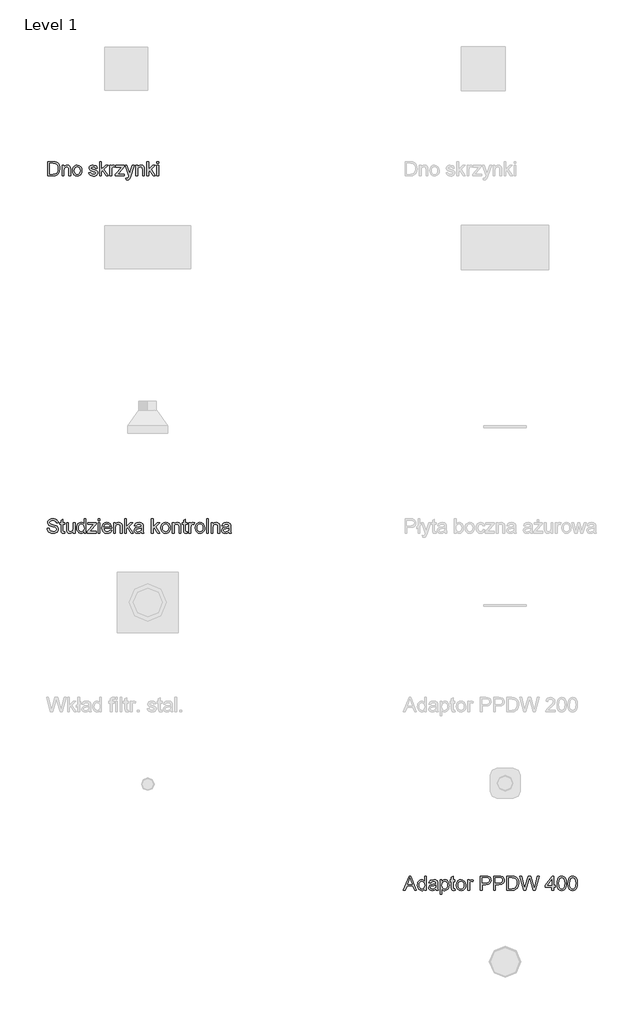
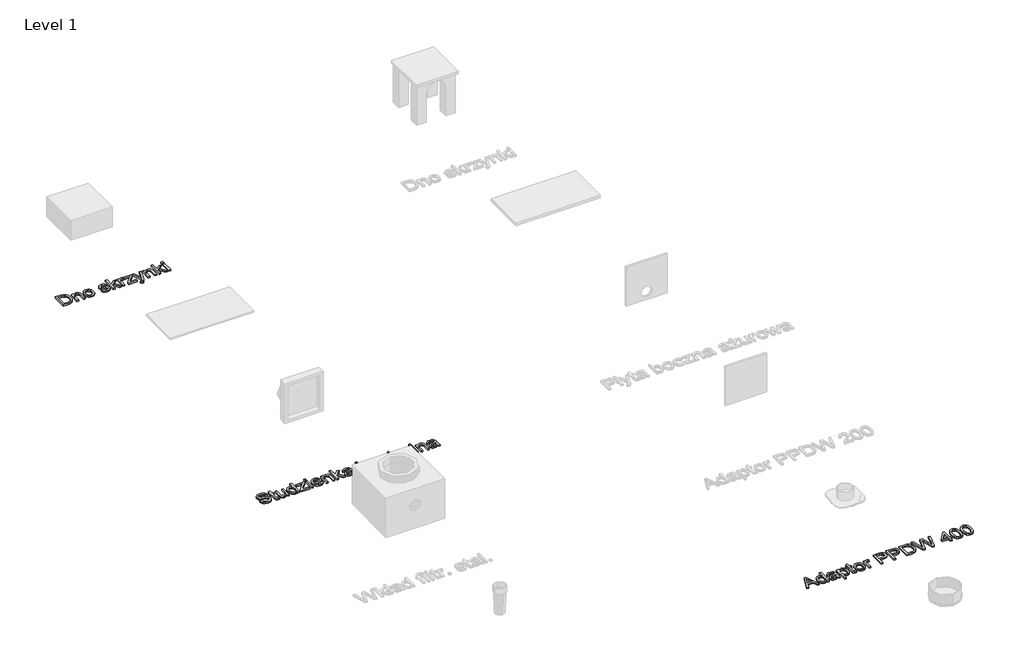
# One storey, part 2 of 5: 3 proxies.
"""IFC4 building model written with IfcOpenShell, lengths in millimetres."""

from ifc_helpers import new_model, si_unit, origin, origin_with_axes, place, context, project, spatial, polyline, outline, extrude, element, save

model = new_model("IFC4")

# Units and contexts
model_context = context("Model", 3, world=origin())
ifc_project = project(units=[si_unit("LENGTHUNIT", "METRE", prefix="MILLI")], contexts=[model_context])

# Site, building, storey
site = spatial("IfcSite", under=ifc_project)
building = spatial("IfcBuilding", under=site)
storey = spatial("IfcBuildingStorey", under=building, Name="Level 1", Elevation=0.0)

# Proxies
placement = place(None, origin())
element("IfcBuildingElementProxy", 1, Name="200mm Arial", ObjectType="200mm Arial", at=placement, inside=storey, context=model_context, shape_type="SweptSolid", body=[
    extrude(outline(polyline([(-12354.0896023, -14113.949573), (-12273.8913273, -13913.0369527), (-12252.5051207, -13913.0369527), (-12172.3068457, -14113.949573), (-12198.8434003, -14113.949573), (-12221.8482877, -14051.1643791), (-12304.5972112, -14051.1643791), (-12327.5530477, -14113.949573), (-12354.0896023, -14113.949573)]), holes=[polyline([(-12295.3756358, -14026.0503016), (-12231.0208121, -14026.0503016), (-12249.1206063, -13976.6560124), (-12263.198224, -13938.1510302), (-12275.7062118, -13972.3395303), (-12295.3756358, -14026.0503016)])]), origin_with_axes(), (0.0, 0.0, 1.0), 20.0),
    extrude(outline(polyline([(-12057.5767142, -14113.949573), (-12057.5767142, -14090.2579725), (-12065.0907039, -14101.9964738), (-12074.1927176, -14110.3811176), (-12084.8827552, -14115.4119039), (-12097.1608168, -14117.0888326), (-12113.3966756, -14114.6608115), (-12128.2591082, -14107.376748), (-12140.8406724, -14095.7455456), (-12150.233926, -14080.2761077), (-12156.0832497, -14061.5938337), (-12158.0330243, -14040.324123), (-12156.2365339, -14019.3180611), (-12150.8470627, -14000.3476128), (-12141.870742, -13984.4918989), (-12129.3137032, -13972.8300396), (-12114.1263082, -13965.6563407), (-12097.2589187, -13963.2651077), (-12084.9716601, -13964.975759), (-12074.1068785, -13970.1077128), (-12057.5767142, -13987.8886759), (-12057.5767142, -13913.0369527), (-12032.4626366, -13913.0369527), (-12032.4626366, -14113.949573), (-12057.5767142, -14113.949573)]), holes=[polyline([(-12132.9189468, -14040.2260211), (-12130.0862554, -14062.9427343), (-12121.5881813, -14079.0988853), (-12109.239609, -14088.7557877), (-12094.855423, -14091.9747551), (-12080.4773684, -14088.9029404), (-12068.4414957, -14079.6874965), (-12060.2929095, -14064.1567449), (-12057.5767142, -14042.1390075), (-12060.3419605, -14018.0672623), (-12068.6376995, -14001.3776824), (-12080.9801404, -13991.6288096), (-12095.8854926, -13988.3791853), (-12110.4168314, -13991.5000509), (-12122.3239453, -14000.8626476), (-12130.2701964, -14016.9452222), (-12132.9189468, -14040.2260211)])]), origin_with_axes(), (0.0, 0.0, 1.0), 20.0),
    extrude(outline(polyline([(-11900.6137295, -14095.1140148), (-11924.9675176, -14112.1346884), (-11951.8719542, -14117.0888326), (-11972.859622, -14114.1089885), (-11988.3413227, -14105.169456), (-11997.8878604, -14091.5946104), (-12001.0700397, -14074.7088268), (-11996.2630483, -14054.8431991), (-11983.6324331, -14040.4222249), (-11966.0476738, -14032.1816682), (-11944.3181106, -14028.4047463), (-11900.7608823, -14019.7717822), (-11900.6137295, -14014.1799759), (-11902.3427749, -14002.9718377), (-11907.5299111, -13995.6387233), (-11919.1304566, -13990.1940698), (-11935.292739, -13988.3791853), (-11950.2532734, -13989.5870645), (-11960.7011221, -13993.2107021), (-11967.8257701, -13999.9122858), (-11972.8167025, -14010.3540031), (-11997.93078, -14007.2147434), (-11987.0659984, -13982.6892771), (-11977.8076349, -13974.4364576), (-11965.1892824, -13968.3173538), (-11932.0553774, -13963.2651077), (-11901.6192737, -13967.7287426), (-11884.4269218, -13978.9368807), (-11876.7259253, -13995.9820798), (-11875.499652, -14017.9568977), (-11875.499652, -14049.2023418), (-11874.2243278, -14092.8331464), (-11869.2211326, -14113.949573), (-11894.3352102, -14113.949573), (-11900.6137295, -14095.1140148)]), holes=[polyline([(-11900.6137295, -14044.8858597), (-11941.1297999, -14052.5868562), (-11962.7367358, -14056.6580836), (-11972.5223969, -14063.2799595), (-11975.9559622, -14072.9429932), (-11974.0858953, -14080.4109977), (-11968.4756949, -14086.5301016), (-11959.2479882, -14090.6135917), (-11946.5254025, -14091.9747551), (-11933.0363961, -14090.4725703), (-11921.1170194, -14085.9660159), (-11904.7340079, -14071.4224143), (-11900.7608823, -14051.998245), (-11900.6137295, -14044.8858597)])]), origin_with_axes(), (0.0, 0.0, 1.0), 20.0),
    extrude(outline(polyline([(-11840.9677954, -14170.4562474), (-11840.9677954, -13966.4043674), (-11815.8537179, -13966.4043674), (-11815.8537179, -13991.0279356), (-11798.4896877, -13970.2058147), (-11787.7965844, -13965.0002845), (-11775.0433419, -13963.2651077), (-11758.0594564, -13965.6931289), (-11743.2092865, -13972.9771924), (-11731.1182316, -13984.6758398), (-11722.4116911, -14000.3476128), (-11717.1509785, -14018.8520772), (-11715.3974077, -14039.0487987), (-11717.3778391, -14060.5269759), (-11723.3191333, -14079.7365474), (-11733.031218, -14095.702626), (-11746.3240208, -14107.4503244), (-11761.8057214, -14114.6792056), (-11778.0844997, -14117.0888326), (-11789.629863, -14115.4762832), (-11799.9366902, -14110.638635), (-11815.8537179, -14094.3291999), (-11815.8537179, -14170.4562474), (-11840.9677954, -14170.4562474)]), holes=[polyline([(-11815.8537179, -14041.3541926), (-11813.1375225, -14063.8685707), (-11804.9889363, -14079.6139201), (-11792.9653264, -14088.8845463), (-11778.6240599, -14091.9747551), (-11764.0498016, -14088.7741818), (-11751.7196234, -14079.1724617), (-11743.3135198, -14062.8507638), (-11740.5114852, -14039.4902571), (-11743.2460747, -14017.0985064), (-11751.4498432, -14001.1324278), (-11763.455059, -13991.5674959), (-11777.5939904, -13988.3791853), (-11791.788104, -13991.769831), (-11804.2531723, -14001.9417682), (-11812.9535815, -14018.5761657), (-11815.8537179, -14041.3541926)])]), origin_with_axes(), (0.0, 0.0, 1.0), 20.0),
    extrude(outline(polyline([(-11633.7766557, -14093.0048247), (-11630.637396, -14114.6853369), (-11649.4239032, -14117.0888326), (-11670.4667534, -14112.9195034), (-11680.963653, -14101.9811454), (-11684.0048108, -14073.4825535), (-11684.0048108, -13991.518445), (-11702.8403689, -13991.518445), (-11702.8403689, -13966.4043674), (-11684.0048108, -13966.4043674), (-11684.0048108, -13930.5481356), (-11658.8907332, -13915.7838049), (-11658.8907332, -13966.4043674), (-11633.7766557, -13966.4043674), (-11633.7766557, -13991.518445), (-11658.8907332, -13991.518445), (-11658.8907332, -14072.7467895), (-11657.5663581, -14085.6962357), (-11653.2744015, -14090.2824979), (-11644.7150137, -14091.9747551), (-11633.7766557, -14093.0048247)])), origin_with_axes(), (0.0, 0.0, 1.0), 20.0),
    extrude(outline(polyline([(-11614.9410976, -14040.1769702), (-11609.5087068, -14004.6027813), (-11602.7182183, -13990.7796153), (-11593.2115344, -13979.5990683), (-11573.0761265, -13967.3485979), (-11548.9675931, -13963.2651077), (-11522.5843227, -13968.237646), (-11501.5108157, -13983.1552609), (-11487.6968468, -14006.8407301), (-11483.0921905, -14038.116831), (-11485.1278042, -14063.4884259), (-11491.2346453, -14082.8022307), (-11501.2349042, -14097.2661245), (-11514.9507713, -14108.0879865), (-11531.2418123, -14114.8386211), (-11548.9675931, -14117.0888326), (-11575.6696946, -14112.1346884), (-11596.7186761, -14097.2722558), (-11610.3854922, -14073.090146), (-11614.9410976, -14040.1769702)]), holes=[polyline([(-11589.82702, -14040.1279193), (-11586.9207523, -14062.8568952), (-11578.201949, -14079.0498343), (-11565.0808245, -14088.7435249), (-11548.9675931, -14091.9747551), (-11532.9279381, -14088.7251308), (-11519.8313391, -14078.9762579), (-11511.1125358, -14062.568721), (-11508.206268, -14039.3431043), (-11511.1309299, -14017.276316), (-11519.9049155, -14001.304106), (-11533.0199086, -13991.6104155), (-11548.9675931, -13988.3791853), (-11565.0808245, -13991.5981527), (-11578.201949, -14001.2550551), (-11586.9207523, -14017.4112061), (-11589.82702, -14040.1279193)])]), origin_with_axes(), (0.0, 0.0, 1.0), 20.0),
    extrude(outline(polyline([(-11454.8388533, -14113.949573), (-11454.8388533, -13966.4043674), (-11432.8640354, -13966.4043674), (-11432.8640354, -13988.2320325), (-11417.2658388, -13968.1211501), (-11401.5695404, -13963.2651077), (-11389.0615525, -13965.2026196), (-11376.3573609, -13971.0151551), (-11384.7450704, -13993.5295332), (-11402.4034062, -13988.3791853), (-11416.6036512, -13993.3333295), (-11425.6535483, -14007.0675906), (-11429.7247757, -14036.4000484), (-11429.7247757, -14113.949573), (-11454.8388533, -14113.949573)])), origin_with_axes(), (0.0, 0.0, 1.0), 20.0),
    extrude(outline(polyline([(-11279.0403105, -14113.949573), (-11279.0403105, -13913.0369527), (-11204.5809947, -13913.0369527), (-11174.5618239, -13914.949939), (-11150.1589848, -13924.3431926), (-11141.2868974, -13932.6695885), (-11134.3400591, -13943.767362), (-11129.8518987, -13956.8578296), (-11128.3558453, -13971.1623079), (-11132.3964158, -13994.8416456), (-11144.5181276, -14014.5723833), (-11154.2256137, -14022.3408248), (-11167.1857899, -14027.8897115), (-11202.864212, -14032.328821), (-11253.926233, -14032.328821), (-11253.926233, -14113.949573), (-11279.0403105, -14113.949573)]), holes=[polyline([(-11253.926233, -14007.2147434), (-11201.392684, -14007.2147434), (-11179.1235606, -14004.9093496), (-11164.4082808, -13997.9931681), (-11156.2045123, -13986.8953946), (-11153.4699228, -13972.0452247), (-11155.0824722, -13960.7635102), (-11159.9201205, -13951.2476292), (-11167.3819936, -13944.086193), (-11176.8672177, -13939.8678128), (-11201.9812952, -13938.1510302), (-11253.926233, -13938.1510302), (-11253.926233, -14007.2147434)])]), origin_with_axes(), (0.0, 0.0, 1.0), 20.0),
    extrude(outline(polyline([(-11093.8239887, -14113.949573), (-11093.8239887, -13913.0369527), (-11019.3646728, -13913.0369527), (-10989.345502, -13914.949939), (-10964.942663, -13924.3431926), (-10956.0705756, -13932.6695885), (-10949.1237372, -13943.767362), (-10944.6355769, -13956.8578296), (-10943.1395234, -13971.1623079), (-10947.180094, -13994.8416456), (-10959.3018058, -14014.5723833), (-10969.0092919, -14022.3408248), (-10981.969468, -14027.8897115), (-11017.6478902, -14032.328821), (-11068.7099111, -14032.328821), (-11068.7099111, -14113.949573), (-11093.8239887, -14113.949573)]), holes=[polyline([(-11068.7099111, -14007.2147434), (-11016.1763622, -14007.2147434), (-10993.9072388, -14004.9093496), (-10979.191959, -13997.9931681), (-10970.9881905, -13986.8953946), (-10968.253601, -13972.0452247), (-10969.8661504, -13960.7635102), (-10974.7037986, -13951.2476292), (-10982.1656718, -13944.086193), (-10991.6508959, -13939.8678128), (-11016.7649734, -13938.1510302), (-11068.7099111, -13938.1510302), (-11068.7099111, -14007.2147434)])]), origin_with_axes(), (0.0, 0.0, 1.0), 20.0),
    extrude(outline(polyline([(-10908.6076668, -14113.949573), (-10908.6076668, -13913.0369527), (-10839.2986989, -13913.0369527), (-10803.4424671, -13915.9309577), (-10787.4273376, -13921.5105013), (-10773.9138056, -13930.302881), (-10760.020129, -13945.606772), (-10750.1241033, -13964.6385338), (-10744.2012032, -13987.0302846), (-10742.2269031, -14012.4141423), (-10747.5734548, -14052.9547382), (-10761.3077159, -14082.2136195), (-10779.6527648, -14100.436041), (-10803.6631963, -14110.5160077), (-10835.9632355, -14113.949573), (-10908.6076668, -14113.949573)]), holes=[polyline([(-10883.4935893, -14088.8354954), (-10839.0534443, -14088.8354954), (-10806.7288796, -14085.2057264), (-10788.0895252, -14074.9540815), (-10779.3645905, -14064.0831685), (-10772.8101597, -14050.0116822), (-10768.7082754, -14032.6783089), (-10767.3409807, -14012.0217348), (-10770.0203879, -13984.6513144), (-10778.0586095, -13964.4423301), (-10789.9350665, -13950.5609162), (-10804.1291802, -13942.1732067), (-10839.7401573, -13938.1510302), (-10883.4935893, -13938.1510302), (-10883.4935893, -14088.8354954)])]), origin_with_axes(), (0.0, 0.0, 1.0), 20.0),
    extrude(outline(polyline([(-10671.7407129, -14113.949573), (-10726.5306047, -13913.0369527), (-10700.6317122, -13913.0369527), (-10668.8467078, -14045.0820635), (-10659.0365213, -14085.8433885), (-10648.5396217, -14049.790953), (-10608.7102643, -13913.0369527), (-10571.3825046, -13913.0369527), (-10542.4424543, -14012.1688876), (-10520.9090948, -14085.8433885), (-10511.3932139, -14046.2592858), (-10479.3139039, -13913.0369527), (-10453.4150114, -13913.0369527), (-10508.2539542, -14113.949573), (-10535.0848144, -14113.949573), (-10583.2528303, -13958.9486257), (-10589.9728081, -13937.3171643), (-10597.5266517, -13963.3632096), (-10641.4272365, -14113.949573), (-10671.7407129, -14113.949573)])), origin_with_axes(), (0.0, 0.0, 1.0), 20.0),
    extrude(outline(polyline([(-10277.6164687, -14113.949573), (-10277.6164687, -14066.8606776), (-10368.6549998, -14066.8606776), (-10368.6549998, -14041.7466), (-10271.3379493, -13916.1762123), (-10252.5023912, -13916.1762123), (-10252.5023912, -14041.7466), (-10227.3883136, -14041.7466), (-10227.3883136, -14066.8606776), (-10252.5023912, -14066.8606776), (-10252.5023912, -14113.949573), (-10277.6164687, -14113.949573)]), holes=[polyline([(-10277.6164687, -14041.7466), (-10277.6164687, -13964.1480245), (-10337.7529122, -14041.7466), (-10277.6164687, -14041.7466)])]), origin_with_axes(), (0.0, 0.0, 1.0), 20.0),
    extrude(outline(polyline([(-10205.4134958, -14015.1119436), (-10203.5679544, -13982.9529258), (-10198.0313304, -13957.3054194), (-10188.858806, -13937.7770168), (-10176.1055635, -13923.9753106), (-10159.6796324, -13915.7715422), (-10139.4890422, -13913.0369527), (-10124.013473, -13914.6556334), (-10110.1565845, -13919.5116758), (-10098.5683016, -13927.4150073), (-10089.8985493, -13938.1755557), (-10078.1263254, -13967.9004209), (-10073.5645887, -14015.1119436), (-10075.3917359, -14047.0870203), (-10080.8731777, -14072.6732131), (-10089.9905198, -14092.2200098), (-10102.7253682, -14106.0768983), (-10119.1880875, -14114.335849), (-10139.4890422, -14117.0888326), (-10165.5841384, -14112.3063667), (-10185.4007152, -14097.9589689), (-10194.1563067, -14082.8298218), (-10200.4103006, -14063.9789353), (-10205.4134958, -14015.1119436)]), holes=[polyline([(-10180.2994182, -14015.0628927), (-10177.3563623, -14054.5672876), (-10168.5271944, -14077.4311536), (-10155.3815444, -14088.3388547), (-10139.4890422, -14091.9747551), (-10123.59654, -14088.326592), (-10110.4508901, -14077.3821026), (-10101.6217222, -14054.5059739), (-10098.6786662, -14015.0628927), (-10101.5236203, -13976.4475459), (-10110.0584826, -13953.4058703), (-10123.1796071, -13941.9647402), (-10139.7833478, -13938.1510302), (-10155.5041718, -13941.5110191), (-10168.1347869, -13951.5909857), (-10177.2582604, -13976.0674012), (-10180.2994182, -14015.0628927)])]), origin_with_axes(), (0.0, 0.0, 1.0), 20.0),
    extrude(outline(polyline([(-10051.5897709, -14015.1119436), (-10049.7442295, -13982.9529258), (-10044.2076055, -13957.3054194), (-10035.0350811, -13937.7770168), (-10022.2818386, -13923.9753106), (-10005.8559075, -13915.7715422), (-9985.6653173, -13913.0369527), (-9970.1897481, -13914.6556334), (-9956.3328596, -13919.5116758), (-9944.7445767, -13927.4150073), (-9936.0748244, -13938.1755557), (-9924.3026005, -13967.9004209), (-9919.7408638, -14015.1119436), (-9921.568011, -14047.0870203), (-9927.0494528, -14072.6732131), (-9936.1667949, -14092.2200098), (-9948.9016433, -14106.0768983), (-9965.3643625, -14114.335849), (-9985.6653173, -14117.0888326), (-10011.7604135, -14112.3063667), (-10031.5769903, -14097.9589689), (-10040.3325818, -14082.8298218), (-10046.5865757, -14063.9789353), (-10051.5897709, -14015.1119436)]), holes=[polyline([(-10026.4756933, -14015.0628927), (-10023.5326374, -14054.5672876), (-10014.7034695, -14077.4311536), (-10001.5578195, -14088.3388547), (-9985.6653173, -14091.9747551), (-9969.7728151, -14088.326592), (-9956.6271652, -14077.3821026), (-9947.7979973, -14054.5059739), (-9944.8549413, -14015.0628927), (-9947.6998954, -13976.4475459), (-9956.2347577, -13953.4058703), (-9969.3558822, -13941.9647402), (-9985.9596229, -13938.1510302), (-10001.6804468, -13941.5110191), (-10014.311062, -13951.5909857), (-10023.4345355, -13976.0674012), (-10026.4756933, -14015.0628927)])]), origin_with_axes(), (0.0, 0.0, 1.0), 20.0),
])
element("IfcBuildingElementProxy", 2, Name="200mm Arial", ObjectType="200mm Arial", at=placement, inside=storey, context=model_context, shape_type="SweptSolid", body=[
    extrude(outline(polyline([(-17340.1100864, -9044.8858597), (-17314.9960089, -9044.8858597), (-17306.902605, -9070.0244627), (-17298.7724129, -9078.9149443), (-17287.1350791, -9085.9169649), (-17272.9103087, -9090.4603076), (-17257.0178065, -9091.9747551), (-17230.7755575, -9087.3884929), (-17213.8284602, -9074.7824032), (-17208.2611794, -9057.9334078), (-17212.4305087, -9042.2616348), (-17218.7826044, -9036.0628232), (-17229.5002332, -9030.857293), (-17266.0677036, -9021.2678356), (-17305.431077, -9008.8824751), (-17317.9329335, -9000.433452), (-17326.7927582, -8990.1940698), (-17332.0718649, -8978.3850577), (-17333.8315671, -8965.227145), (-17331.6549319, -8950.5179966), (-17325.1250265, -8936.8021295), (-17314.4135291, -8925.1770585), (-17299.6921179, -8916.7402981), (-17282.0215194, -8911.6083442), (-17262.46246, -8909.897693), (-17241.2724571, -8911.688052), (-17222.7312045, -8917.0591291), (-17207.5008899, -8925.9005598), (-17196.2437009, -8938.1019793), (-17189.1190529, -8952.9030982), (-17186.2863615, -8969.5436271), (-17211.4004391, -8969.5436271), (-17216.0112267, -8954.5585672), (-17225.6252095, -8943.7428365), (-17240.6470577, -8937.194537), (-17261.4814413, -8935.0117705), (-17282.8063343, -8937.1700115), (-17297.435775, -8943.6447347), (-17305.8970609, -8953.1728783), (-17308.7174895, -8964.491381), (-17306.718664, -8974.1421521), (-17300.7221875, -8981.9044622), (-17286.5464679, -8988.8451691), (-17259.7156078, -8995.9330289), (-17215.2754628, -9008.5391186), (-17200.9587218, -9017.6503293), (-17190.9707256, -9028.8952557), (-17185.1030078, -9042.1512702), (-17183.1471018, -9057.2957457), (-17185.3973134, -9072.7774463), (-17192.147948, -9087.339442), (-17203.1230942, -9099.8719553), (-17218.0468404, -9109.2652089), (-17235.9933504, -9115.1329267), (-17256.0367878, -9117.0888326), (-17280.6419619, -9114.9796425), (-17300.8938658, -9108.6520722), (-17317.0254912, -9098.0815962), (-17329.2698303, -9083.2436891), (-17337.1302423, -9065.1684204), (-17340.1100864, -9044.8858597)])), origin_with_axes(), (0.0, 0.0, 1.0), 20.0),
    extrude(outline(polyline([(-17095.2478305, -9093.0048247), (-17092.1085708, -9114.6853369), (-17110.895078, -9117.0888326), (-17131.9379281, -9112.9195034), (-17142.4348277, -9101.9811454), (-17145.4759855, -9073.4825535), (-17145.4759855, -8991.518445), (-17164.3115437, -8991.518445), (-17164.3115437, -8966.4043674), (-17145.4759855, -8966.4043674), (-17145.4759855, -8930.5481356), (-17120.361908, -8915.7838049), (-17120.361908, -8966.4043674), (-17095.2478305, -8966.4043674), (-17095.2478305, -8991.518445), (-17120.361908, -8991.518445), (-17120.361908, -9072.7467895), (-17119.0375328, -9085.6962357), (-17114.7455762, -9090.2824979), (-17106.1861884, -9091.9747551), (-17095.2478305, -9093.0048247)])), origin_with_axes(), (0.0, 0.0, 1.0), 20.0),
    extrude(outline(polyline([(-16975.9559622, -9113.949573), (-16975.9559622, -9088.5902408), (-16985.0426474, -9101.0583747), (-16995.6253862, -9109.9641847), (-17007.7041783, -9115.3076707), (-17021.279024, -9117.0888326), (-17044.8970481, -9112.0856375), (-17061.1819577, -9099.5285987), (-17068.6622249, -9081.0363971), (-17070.1337529, -9057.6881532), (-17070.1337529, -8966.4043674), (-17045.0196754, -8966.4043674), (-17045.0196754, -9045.8668784), (-17043.4990965, -9071.4714652), (-17039.8386706, -9080.0124589), (-17033.5662826, -9086.5055761), (-17014.8533518, -9091.9747551), (-16993.8840781, -9086.3829488), (-16985.5270254, -9079.779467), (-16980.0271896, -9071.1526342), (-16975.9559622, -9043.1690771), (-16975.9559622, -8966.4043674), (-16950.8418846, -8966.4043674), (-16950.8418846, -9113.949573), (-16975.9559622, -9113.949573)])), origin_with_axes(), (0.0, 0.0, 1.0), 20.0),
    extrude(outline(polyline([(-16825.2714969, -9113.949573), (-16825.2714969, -9090.2579725), (-16832.7854867, -9101.9964738), (-16841.8875004, -9110.3811176), (-16852.577538, -9115.4119039), (-16864.8555996, -9117.0888326), (-16881.0914583, -9114.6608115), (-16895.9538909, -9107.376748), (-16908.5354552, -9095.7455456), (-16917.9287088, -9080.2761077), (-16923.7780325, -9061.5938337), (-16925.7278071, -9040.324123), (-16923.9313167, -9019.3180611), (-16918.5418454, -9000.3476128), (-16909.5655248, -8984.4918989), (-16897.008486, -8972.8300396), (-16881.821091, -8965.6563407), (-16864.9537015, -8963.2651077), (-16852.6664428, -8964.975759), (-16841.8016612, -8970.1077128), (-16825.2714969, -8987.8886759), (-16825.2714969, -8913.0369527), (-16800.1574194, -8913.0369527), (-16800.1574194, -9113.949573), (-16825.2714969, -9113.949573)]), holes=[polyline([(-16900.6137295, -9040.2260211), (-16897.7810382, -9062.9427343), (-16889.2829641, -9079.0988853), (-16876.9343918, -9088.7557877), (-16862.5502058, -9091.9747551), (-16848.1721511, -9088.9029404), (-16836.1362785, -9079.6874965), (-16827.9876923, -9064.1567449), (-16825.2714969, -9042.1390075), (-16828.0367433, -9018.0672623), (-16836.3324823, -9001.3776824), (-16848.6749232, -8991.6288096), (-16863.5802754, -8988.3791853), (-16878.1116142, -8991.5000509), (-16890.0187281, -9000.8626476), (-16897.9649792, -9016.9452222), (-16900.6137295, -9040.2260211)])]), origin_with_axes(), (0.0, 0.0, 1.0), 20.0),
    extrude(outline(polyline([(-16778.1826015, -9113.949573), (-16778.1826015, -9090.3070234), (-16691.5096035, -8991.518445), (-16717.1632413, -8991.518445), (-16771.9040822, -8991.518445), (-16771.9040822, -8966.4043674), (-16655.7514736, -8966.4043674), (-16655.7514736, -8987.7415231), (-16732.6142851, -9075.3955399), (-16744.3865089, -9088.8354954), (-16715.3483568, -9088.8354954), (-16652.6122139, -9088.8354954), (-16652.6122139, -9113.949573), (-16778.1826015, -9113.949573)])), origin_with_axes(), (0.0, 0.0, 1.0), 20.0),
    extrude(outline(polyline([(-16627.4981363, -8938.1510302), (-16627.4981363, -8913.0369527), (-16602.3840588, -8913.0369527), (-16602.3840588, -8938.1510302), (-16627.4981363, -8938.1510302)])), origin_with_axes(), (0.0, 0.0, 1.0), 20.0),
    extrude(outline(polyline([(-16627.4981363, -9113.949573), (-16627.4981363, -8966.4043674), (-16602.3840588, -8966.4043674), (-16602.3840588, -9113.949573), (-16627.4981363, -9113.949573)])), origin_with_axes(), (0.0, 0.0, 1.0), 20.0),
    extrude(outline(polyline([(-16461.4116782, -9069.9999373), (-16436.78811, -9073.139197), (-16445.6601975, -9091.6927122), (-16459.8175229, -9105.5618635), (-16478.9412553, -9114.2070904), (-16502.7125636, -9117.0888326), (-16532.1799114, -9112.1162943), (-16554.853705, -9097.1986794), (-16569.3114674, -9073.3047439), (-16574.1307216, -9041.4032435), (-16569.2624165, -9008.428754), (-16554.6575013, -8983.7683976), (-16532.290276, -8968.3909302), (-16504.1350406, -8963.2651077), (-16476.8565907, -8968.3786675), (-16455.0595825, -8983.7193467), (-16440.7673669, -9008.3306521), (-16436.0032951, -9041.2560907), (-16436.1504479, -9048.0251194), (-16549.016644, -9048.0251194), (-16544.6695051, -9066.8238894), (-16534.5711443, -9080.6439897), (-16519.996886, -9089.1420637), (-16502.2220542, -9091.9747551), (-16477.598486, -9086.7263053), (-16468.4504871, -9079.9204884), (-16461.4116782, -9069.9999373)]), holes=[polyline([(-16549.016644, -9022.9110419), (-16461.1173726, -9022.9110419), (-16464.5141497, -9009.6427646), (-16471.1728138, -9000.1514091), (-16485.8145172, -8991.3222412), (-16504.2331425, -8988.3791853), (-16521.1618456, -8990.7274987), (-16535.1597555, -8997.7724389), (-16544.8902343, -9008.7537164), (-16549.016644, -9022.9110419)])]), origin_with_axes(), (0.0, 0.0, 1.0), 20.0),
    extrude(outline(polyline([(-16410.8892176, -9113.949573), (-16410.8892176, -8966.4043674), (-16385.77514, -8966.4043674), (-16385.77514, -8987.0057592), (-16377.0502054, -8976.6192242), (-16366.5716999, -8969.2002706), (-16354.3396235, -8964.7488984), (-16340.3539764, -8963.2651077), (-16316.6378504, -8968.0475737), (-16300.4510426, -8980.6046124), (-16292.9217244, -8999.0722886), (-16291.5973493, -9023.3525003), (-16291.5973493, -9113.949573), (-16316.7114268, -9113.949573), (-16316.7114268, -9026.7370146), (-16319.6054318, -9004.5169421), (-16329.8325513, -8992.7692437), (-16347.0739541, -8988.3791853), (-16361.7831026, -8990.8439946), (-16374.3217472, -8998.2384227), (-16382.9117918, -9012.5245069), (-16385.77514, -9035.6642844), (-16385.77514, -9113.949573), (-16410.8892176, -9113.949573)])), origin_with_axes(), (0.0, 0.0, 1.0), 20.0),
    extrude(outline(polyline([(-16257.0654926, -9113.949573), (-16257.0654926, -8913.0369527), (-16231.9514151, -8913.0369527), (-16231.9514151, -9020.9980555), (-16175.6409444, -8966.4043674), (-16140.912884, -8966.4043674), (-16197.9100678, -9021.6847686), (-16137.7736243, -9113.949573), (-16167.1060821, -9113.949573), (-16215.9117601, -9039.1469006), (-16231.9514151, -9054.6960463), (-16231.9514151, -9113.949573), (-16257.0654926, -9113.949573)])), origin_with_axes(), (0.0, 0.0, 1.0), 20.0),
    extrude(outline(polyline([(-16021.6210157, -9095.1140148), (-16045.9748038, -9112.1346884), (-16072.8792404, -9117.0888326), (-16093.8669082, -9114.1089885), (-16109.3486089, -9105.169456), (-16118.8951466, -9091.5946104), (-16122.0773259, -9074.7088268), (-16117.2703345, -9054.8431991), (-16104.6397193, -9040.4222249), (-16087.0549599, -9032.1816682), (-16065.3253968, -9028.4047463), (-16021.7681685, -9019.7717822), (-16021.6210157, -9014.1799759), (-16023.3500611, -9002.9718377), (-16028.5371972, -8995.6387233), (-16040.1377428, -8990.1940698), (-16056.3000251, -8988.3791853), (-16071.2605596, -8989.5870645), (-16081.7084083, -8993.2107021), (-16088.8330563, -8999.9122858), (-16093.8239887, -9010.3540031), (-16118.9380662, -9007.2147434), (-16108.0732846, -8982.6892771), (-16098.8149211, -8974.4364576), (-16086.1965686, -8968.3173538), (-16053.0626636, -8963.2651077), (-16022.6265599, -8967.7287426), (-16005.4342079, -8978.9368807), (-15997.7332115, -8995.9820798), (-15996.5069382, -9017.9568977), (-15996.5069382, -9049.2023418), (-15995.2316139, -9092.8331464), (-15990.2284188, -9113.949573), (-16015.3424963, -9113.949573), (-16021.6210157, -9095.1140148)]), holes=[polyline([(-16021.6210157, -9044.8858597), (-16062.1370861, -9052.5868562), (-16083.744022, -9056.6580836), (-16093.5296831, -9063.2799595), (-16096.9632483, -9072.9429932), (-16095.0931815, -9080.4109977), (-16089.4829811, -9086.5301016), (-16080.2552744, -9090.6135917), (-16067.5326887, -9091.9747551), (-16054.0436822, -9090.4725703), (-16042.1243056, -9085.9660159), (-16025.7412941, -9071.4224143), (-16021.7681685, -9051.998245), (-16021.6210157, -9044.8858597)])]), origin_with_axes(), (0.0, 0.0, 1.0), 20.0),
    extrude(outline(polyline([(-15883.4935893, -9113.949573), (-15883.4935893, -8913.0369527), (-15858.3795117, -8913.0369527), (-15858.3795117, -9020.9980555), (-15802.069041, -8966.4043674), (-15767.3409807, -8966.4043674), (-15824.3381645, -9021.6847686), (-15764.201721, -9113.949573), (-15793.5341787, -9113.949573), (-15842.3398568, -9039.1469006), (-15858.3795117, -9054.6960463), (-15858.3795117, -9113.949573), (-15883.4935893, -9113.949573)])), origin_with_axes(), (0.0, 0.0, 1.0), 20.0),
    extrude(outline(polyline([(-15748.5054225, -9040.1769702), (-15743.0730317, -9004.6027813), (-15736.2825432, -8990.7796153), (-15726.7758593, -8979.5990683), (-15706.6404515, -8967.3485979), (-15682.531918, -8963.2651077), (-15656.1486476, -8968.237646), (-15635.0751407, -8983.1552609), (-15621.2611717, -9006.8407301), (-15616.6565154, -9038.116831), (-15618.6921291, -9063.4884259), (-15624.7989703, -9082.8022307), (-15634.7992292, -9097.2661245), (-15648.5150962, -9108.0879865), (-15664.8061372, -9114.8386211), (-15682.531918, -9117.0888326), (-15709.2340195, -9112.1346884), (-15730.283001, -9097.2722558), (-15743.9498171, -9073.090146), (-15748.5054225, -9040.1769702)]), holes=[polyline([(-15723.391345, -9040.1279193), (-15720.4850772, -9062.8568952), (-15711.7662739, -9079.0498343), (-15698.6451494, -9088.7435249), (-15682.531918, -9091.9747551), (-15666.4922631, -9088.7251308), (-15653.395664, -9078.9762579), (-15644.6768607, -9062.568721), (-15641.770593, -9039.3431043), (-15644.6952548, -9017.276316), (-15653.4692404, -9001.304106), (-15666.5842336, -8991.6104155), (-15682.531918, -8988.3791853), (-15698.6451494, -8991.5981527), (-15711.7662739, -9001.2550551), (-15720.4850772, -9017.4112061), (-15723.391345, -9040.1279193)])]), origin_with_axes(), (0.0, 0.0, 1.0), 20.0),
    extrude(outline(polyline([(-15588.4031782, -9113.949573), (-15588.4031782, -8966.4043674), (-15563.2891007, -8966.4043674), (-15563.2891007, -8987.0057592), (-15554.564166, -8976.6192242), (-15544.0856605, -8969.2002706), (-15531.8535842, -8964.7488984), (-15517.867937, -8963.2651077), (-15494.151811, -8968.0475737), (-15477.9650033, -8980.6046124), (-15470.4356851, -8999.0722886), (-15469.1113099, -9023.3525003), (-15469.1113099, -9113.949573), (-15494.2253874, -9113.949573), (-15494.2253874, -9026.7370146), (-15497.1193925, -9004.5169421), (-15507.3465119, -8992.7692437), (-15524.5879148, -8988.3791853), (-15539.2970632, -8990.8439946), (-15551.8357079, -8998.2384227), (-15560.4257525, -9012.5245069), (-15563.2891007, -9035.6642844), (-15563.2891007, -9113.949573), (-15588.4031782, -9113.949573)])), origin_with_axes(), (0.0, 0.0, 1.0), 20.0),
    extrude(outline(polyline([(-15381.2120385, -9093.0048247), (-15378.0727788, -9114.6853369), (-15396.8592861, -9117.0888326), (-15417.9021362, -9112.9195034), (-15428.3990358, -9101.9811454), (-15431.4401936, -9073.4825535), (-15431.4401936, -8991.518445), (-15450.2757518, -8991.518445), (-15450.2757518, -8966.4043674), (-15431.4401936, -8966.4043674), (-15431.4401936, -8930.5481356), (-15406.3261161, -8915.7838049), (-15406.3261161, -8966.4043674), (-15381.2120385, -8966.4043674), (-15381.2120385, -8991.518445), (-15406.3261161, -8991.518445), (-15406.3261161, -9072.7467895), (-15405.0017409, -9085.6962357), (-15400.7097843, -9090.2824979), (-15392.1503965, -9091.9747551), (-15381.2120385, -9093.0048247)])), origin_with_axes(), (0.0, 0.0, 1.0), 20.0),
    extrude(outline(polyline([(-15356.097961, -9113.949573), (-15356.097961, -8966.4043674), (-15334.1231431, -8966.4043674), (-15334.1231431, -8988.2320325), (-15318.5249466, -8968.1211501), (-15302.8286481, -8963.2651077), (-15290.3206603, -8965.2026196), (-15277.6164687, -8971.0151551), (-15286.0041782, -8993.5295332), (-15303.6625139, -8988.3791853), (-15317.862759, -8993.3333295), (-15326.912656, -9007.0675906), (-15330.9838835, -9036.4000484), (-15330.9838835, -9113.949573), (-15356.097961, -9113.949573)])), origin_with_axes(), (0.0, 0.0, 1.0), 20.0),
    extrude(outline(polyline([(-15268.1986896, -9040.1769702), (-15262.7662988, -9004.6027813), (-15255.9758103, -8990.7796153), (-15246.4691264, -8979.5990683), (-15226.3337186, -8967.3485979), (-15202.2251851, -8963.2651077), (-15175.8419147, -8968.237646), (-15154.7684078, -8983.1552609), (-15140.9544388, -9006.8407301), (-15136.3497825, -9038.116831), (-15138.3853962, -9063.4884259), (-15144.4922374, -9082.8022307), (-15154.4924963, -9097.2661245), (-15168.2083633, -9108.0879865), (-15184.4994043, -9114.8386211), (-15202.2251851, -9117.0888326), (-15228.9272866, -9112.1346884), (-15249.9762681, -9097.2722558), (-15263.6430842, -9073.090146), (-15268.1986896, -9040.1769702)]), holes=[polyline([(-15243.0846121, -9040.1279193), (-15240.1783443, -9062.8568952), (-15231.459541, -9079.0498343), (-15218.3384165, -9088.7435249), (-15202.2251851, -9091.9747551), (-15186.1855302, -9088.7251308), (-15173.0889311, -9078.9762579), (-15164.3701278, -9062.568721), (-15161.4638601, -9039.3431043), (-15164.3885219, -9017.276316), (-15173.1625075, -9001.304106), (-15186.2775007, -8991.6104155), (-15202.2251851, -8988.3791853), (-15218.3384165, -8991.5981527), (-15231.459541, -9001.2550551), (-15240.1783443, -9017.4112061), (-15243.0846121, -9040.1279193)])]), origin_with_axes(), (0.0, 0.0, 1.0), 20.0),
    extrude(outline(polyline([(-15108.0964453, -9113.949573), (-15108.0964453, -8913.0369527), (-15082.9823678, -8913.0369527), (-15082.9823678, -9113.949573), (-15108.0964453, -9113.949573)])), origin_with_axes(), (0.0, 0.0, 1.0), 20.0),
    extrude(outline(polyline([(-15045.3112515, -9113.949573), (-15045.3112515, -8966.4043674), (-15020.1971739, -8966.4043674), (-15020.1971739, -8987.0057592), (-15011.4722393, -8976.6192242), (-15000.9937338, -8969.2002706), (-14988.7616574, -8964.7488984), (-14974.7760103, -8963.2651077), (-14951.0598843, -8968.0475737), (-14934.8730765, -8980.6046124), (-14927.3437583, -8999.0722886), (-14926.0193832, -9023.3525003), (-14926.0193832, -9113.949573), (-14951.1334607, -9113.949573), (-14951.1334607, -9026.7370146), (-14954.0274657, -9004.5169421), (-14964.2545852, -8992.7692437), (-14981.495988, -8988.3791853), (-14996.2051365, -8990.8439946), (-15008.7437811, -8998.2384227), (-15017.3338257, -9012.5245069), (-15020.1971739, -9035.6642844), (-15020.1971739, -9113.949573), (-15045.3112515, -9113.949573)])), origin_with_axes(), (0.0, 0.0, 1.0), 20.0),
    extrude(outline(polyline([(-14797.3097358, -9095.1140148), (-14821.6635239, -9112.1346884), (-14848.5679604, -9117.0888326), (-14869.5556283, -9114.1089885), (-14885.0373289, -9105.169456), (-14894.5838667, -9091.5946104), (-14897.7660459, -9074.7088268), (-14892.9590545, -9054.8431991), (-14880.3284394, -9040.4222249), (-14862.74368, -9032.1816682), (-14841.0141168, -9028.4047463), (-14797.4568886, -9019.7717822), (-14797.3097358, -9014.1799759), (-14799.0387812, -9002.9718377), (-14804.2259173, -8995.6387233), (-14815.8264629, -8990.1940698), (-14831.9887452, -8988.3791853), (-14846.9492797, -8989.5870645), (-14857.3971283, -8993.2107021), (-14864.5217763, -8999.9122858), (-14869.5127087, -9010.3540031), (-14894.6267862, -9007.2147434), (-14883.7620047, -8982.6892771), (-14874.5036411, -8974.4364576), (-14861.8852887, -8968.3173538), (-14828.7513836, -8963.2651077), (-14798.3152799, -8967.7287426), (-14781.122928, -8978.9368807), (-14773.4219316, -8995.9820798), (-14772.1956582, -9017.9568977), (-14772.1956582, -9049.2023418), (-14770.920334, -9092.8331464), (-14765.9171389, -9113.949573), (-14791.0312164, -9113.949573), (-14797.3097358, -9095.1140148)]), holes=[polyline([(-14797.3097358, -9044.8858597), (-14837.8258062, -9052.5868562), (-14859.432742, -9056.6580836), (-14869.2184031, -9063.2799595), (-14872.6519684, -9072.9429932), (-14870.7819016, -9080.4109977), (-14865.1717012, -9086.5301016), (-14855.9439944, -9090.6135917), (-14843.2214088, -9091.9747551), (-14829.7324023, -9090.4725703), (-14817.8130256, -9085.9660159), (-14801.4300141, -9071.4224143), (-14797.4568886, -9051.998245), (-14797.3097358, -9044.8858597)])]), origin_with_axes(), (0.0, 0.0, 1.0), 20.0),
])
element("IfcBuildingElementProxy", 3, Name="200mm Arial", ObjectType="200mm Arial", at=placement, inside=storey, context=model_context, shape_type="SweptSolid", body=[
    extrude(outline(polyline([(-17330.6923074, -4113.949573), (-17330.6923074, -3913.0369527), (-17261.3833395, -3913.0369527), (-17225.5271077, -3915.9309577), (-17209.5119782, -3921.5105013), (-17195.9984462, -3930.302881), (-17182.1047695, -3945.606772), (-17172.2087438, -3964.6385338), (-17166.2858437, -3987.0302846), (-17164.3115437, -4012.4141423), (-17169.6580953, -4052.9547382), (-17183.3923565, -4082.2136195), (-17201.7374053, -4100.436041), (-17225.7478369, -4110.5160077), (-17258.0478761, -4113.949573), (-17330.6923074, -4113.949573)]), holes=[polyline([(-17305.5782298, -4088.8354954), (-17261.1380848, -4088.8354954), (-17228.8135202, -4085.2057264), (-17210.1741658, -4074.9540815), (-17201.4492311, -4064.0831685), (-17194.8948002, -4050.0116822), (-17190.792916, -4032.6783089), (-17189.4256212, -4012.0217348), (-17192.1050284, -3984.6513144), (-17200.14325, -3964.4423301), (-17212.0197071, -3950.5609162), (-17226.2138207, -3942.1732067), (-17261.8247979, -3938.1510302), (-17305.5782298, -3938.1510302), (-17305.5782298, -4088.8354954)])]), origin_with_axes(), (0.0, 0.0, 1.0), 20.0),
    extrude(outline(polyline([(-17132.9189468, -4113.949573), (-17132.9189468, -3966.4043674), (-17107.8048692, -3966.4043674), (-17107.8048692, -3987.0057592), (-17099.0799346, -3976.6192242), (-17088.6014291, -3969.2002706), (-17076.3693527, -3964.7488984), (-17062.3837056, -3963.2651077), (-17038.6675796, -3968.0475737), (-17022.4807718, -3980.6046124), (-17014.9514536, -3999.0722886), (-17013.6270785, -4023.3525003), (-17013.6270785, -4113.949573), (-17038.741156, -4113.949573), (-17038.741156, -4026.7370146), (-17041.635161, -4004.5169421), (-17051.8622805, -3992.7692437), (-17069.1036833, -3988.3791853), (-17083.8128318, -3990.8439946), (-17096.3514764, -3998.2384227), (-17104.941521, -4012.5245069), (-17107.8048692, -4035.6642844), (-17107.8048692, -4113.949573), (-17132.9189468, -4113.949573)])), origin_with_axes(), (0.0, 0.0, 1.0), 20.0),
    extrude(outline(polyline([(-16985.3737412, -4040.1769702), (-16979.9413504, -4004.6027813), (-16973.1508619, -3990.7796153), (-16963.644178, -3979.5990683), (-16943.5087702, -3967.3485979), (-16919.4002368, -3963.2651077), (-16893.0169663, -3968.237646), (-16871.9434594, -3983.1552609), (-16858.1294905, -4006.8407301), (-16853.5248342, -4038.116831), (-16855.5604479, -4063.4884259), (-16861.667289, -4082.8022307), (-16871.6675479, -4097.2661245), (-16885.3834149, -4108.0879865), (-16901.674456, -4114.8386211), (-16919.4002368, -4117.0888326), (-16946.1023382, -4112.1346884), (-16967.1513197, -4097.2722558), (-16980.8181359, -4073.090146), (-16985.3737412, -4040.1769702)]), holes=[polyline([(-16960.2596637, -4040.1279193), (-16957.3533959, -4062.8568952), (-16948.6345926, -4079.0498343), (-16935.5134682, -4088.7435249), (-16919.4002368, -4091.9747551), (-16903.3605818, -4088.7251308), (-16890.2639827, -4078.9762579), (-16881.5451795, -4062.568721), (-16878.6389117, -4039.3431043), (-16881.5635736, -4017.276316), (-16890.3375591, -4001.304106), (-16903.4525523, -3991.6104155), (-16919.4002368, -3988.3791853), (-16935.5134682, -3991.5981527), (-16948.6345926, -4001.2550551), (-16957.3533959, -4017.4112061), (-16960.2596637, -4040.1279193)])]), origin_with_axes(), (0.0, 0.0, 1.0), 20.0),
    extrude(outline(polyline([(-16756.2077837, -4069.9999373), (-16731.0937062, -4066.8606776), (-16727.1328434, -4077.6028318), (-16719.4686351, -4085.500032), (-16708.0520305, -4090.3560743), (-16692.8339787, -4091.9747551), (-16677.7998678, -4090.4909644), (-16667.2293918, -4086.0395923), (-16660.9753979, -4079.5893946), (-16658.8907332, -4072.1091274), (-16660.9876606, -4065.7079807), (-16667.2784427, -4060.8274129), (-16693.1282843, -4053.6659767), (-16730.9465534, -4041.378718), (-16740.5176166, -4035.2044319), (-16747.4521922, -4027.0313202), (-16753.068524, -4006.773285), (-16748.5558382, -3988.0603542), (-16736.2440541, -3973.7620073), (-16720.2779755, -3966.330791), (-16698.6710397, -3963.2651077), (-16668.1123086, -3968.1947265), (-16656.6834413, -3973.9949993), (-16648.6881392, -3981.5365802), (-16640.0551751, -4004.0754837), (-16665.1692526, -4007.2147434), (-16668.3391692, -3999.3114119), (-16674.6115572, -3993.3578549), (-16696.7090023, -3988.3791853), (-16711.1299766, -3989.5686704), (-16720.7439594, -3993.1371257), (-16726.1518247, -3998.2874737), (-16727.9544465, -4004.2226365), (-16724.9623396, -4011.5312255), (-16715.5936114, -4017.0739809), (-16693.9621501, -4022.4205326), (-16657.1003742, -4034.2418073), (-16639.9815987, -4047.632712), (-16635.3278915, -4057.4796867), (-16633.7766557, -4069.460377), (-16635.5976716, -4081.8457375), (-16641.0607192, -4093.495334), (-16649.9573321, -4103.4955929), (-16662.0790439, -4110.9329406), (-16676.7207473, -4115.5498596), (-16693.1773352, -4117.0888326), (-16718.4998792, -4114.1212512), (-16736.9798181, -4105.2185069), (-16749.3161277, -4090.4787017), (-16756.2077837, -4069.9999373)])), origin_with_axes(), (0.0, 0.0, 1.0), 20.0),
    extrude(outline(polyline([(-16605.5233185, -4113.949573), (-16605.5233185, -3913.0369527), (-16580.4092409, -3913.0369527), (-16580.4092409, -4020.9980555), (-16524.0987702, -3966.4043674), (-16489.3707099, -3966.4043674), (-16546.3678937, -4021.6847686), (-16486.2314502, -4113.949573), (-16515.5639079, -4113.949573), (-16564.369586, -4039.1469006), (-16580.4092409, -4054.6960463), (-16580.4092409, -4113.949573), (-16605.5233185, -4113.949573)])), origin_with_axes(), (0.0, 0.0, 1.0), 20.0),
    extrude(outline(polyline([(-16464.2566323, -4113.949573), (-16464.2566323, -3966.4043674), (-16442.2818145, -3966.4043674), (-16442.2818145, -3988.2320325), (-16426.6836179, -3968.1211501), (-16410.9873194, -3963.2651077), (-16398.4793316, -3965.2026196), (-16385.77514, -3971.0151551), (-16394.1628495, -3993.5295332), (-16411.8211853, -3988.3791853), (-16426.0214303, -3993.3333295), (-16435.0713274, -4007.0675906), (-16439.1425548, -4036.4000484), (-16439.1425548, -4113.949573), (-16464.2566323, -4113.949573)])), origin_with_axes(), (0.0, 0.0, 1.0), 20.0),
    extrude(outline(polyline([(-16385.77514, -4113.949573), (-16385.77514, -4090.3070234), (-16299.102142, -3991.518445), (-16324.7557798, -3991.518445), (-16379.4966206, -3991.518445), (-16379.4966206, -3966.4043674), (-16263.344012, -3966.4043674), (-16263.344012, -3987.7415231), (-16340.2068236, -4075.3955399), (-16351.9790474, -4088.8354954), (-16322.9408952, -4088.8354954), (-16260.2047523, -4088.8354954), (-16260.2047523, -4113.949573), (-16385.77514, -4113.949573)])), origin_with_axes(), (0.0, 0.0, 1.0), 20.0),
    extrude(outline(polyline([(-16235.0906748, -4170.4562474), (-16238.2299345, -4146.2741376), (-16225.476692, -4148.4814296), (-16213.5573154, -4145.7100519), (-16206.2487264, -4137.98453), (-16199.3815958, -4119.4923283), (-16197.4195585, -4113.4100127), (-16250.7869733, -3966.4043674), (-16224.2994696, -3966.4043674), (-16195.9970814, -4048.319425), (-16186.137844, -4081.0854481), (-16176.2786065, -4052.1453978), (-16147.1914034, -3966.4043674), (-16120.9001035, -3966.4043674), (-16172.25643, -4117.4812401), (-16185.5982837, -4150.2472631), (-16200.1664107, -4167.9546498), (-16219.7377329, -4173.5955071), (-16235.0906748, -4170.4562474)])), origin_with_axes(), (0.0, 0.0, 1.0), 20.0),
    extrude(outline(polyline([(-16100.102508, -4113.949573), (-16100.102508, -3966.4043674), (-16074.9884305, -3966.4043674), (-16074.9884305, -3987.0057592), (-16066.2634958, -3976.6192242), (-16055.7849904, -3969.2002706), (-16043.552914, -3964.7488984), (-16029.5672668, -3963.2651077), (-16005.8511409, -3968.0475737), (-15989.6643331, -3980.6046124), (-15982.1350149, -3999.0722886), (-15980.8106397, -4023.3525003), (-15980.8106397, -4113.949573), (-16005.9247173, -4113.949573), (-16005.9247173, -4026.7370146), (-16008.8187223, -4004.5169421), (-16019.0458418, -3992.7692437), (-16036.2872446, -3988.3791853), (-16050.996393, -3990.8439946), (-16063.5350377, -3998.2384227), (-16072.1250823, -4012.5245069), (-16074.9884305, -4035.6642844), (-16074.9884305, -4113.949573), (-16100.102508, -4113.949573)])), origin_with_axes(), (0.0, 0.0, 1.0), 20.0),
    extrude(outline(polyline([(-15946.2787831, -4113.949573), (-15946.2787831, -3913.0369527), (-15921.1647056, -3913.0369527), (-15921.1647056, -4020.9980555), (-15864.8542349, -3966.4043674), (-15830.1261745, -3966.4043674), (-15887.1233583, -4021.6847686), (-15826.9869148, -4113.949573), (-15856.3193726, -4113.949573), (-15905.1250506, -4039.1469006), (-15921.1647056, -4054.6960463), (-15921.1647056, -4113.949573), (-15946.2787831, -4113.949573)])), origin_with_axes(), (0.0, 0.0, 1.0), 20.0),
    extrude(outline(polyline([(-15805.012097, -3938.1510302), (-15805.012097, -3913.0369527), (-15779.8980194, -3913.0369527), (-15779.8980194, -3938.1510302), (-15805.012097, -3938.1510302)])), origin_with_axes(), (0.0, 0.0, 1.0), 20.0),
    extrude(outline(polyline([(-15805.012097, -4113.949573), (-15805.012097, -3966.4043674), (-15779.8980194, -3966.4043674), (-15779.8980194, -4113.949573), (-15805.012097, -4113.949573)])), origin_with_axes(), (0.0, 0.0, 1.0), 20.0),
])

save(model, "model.ifc")
